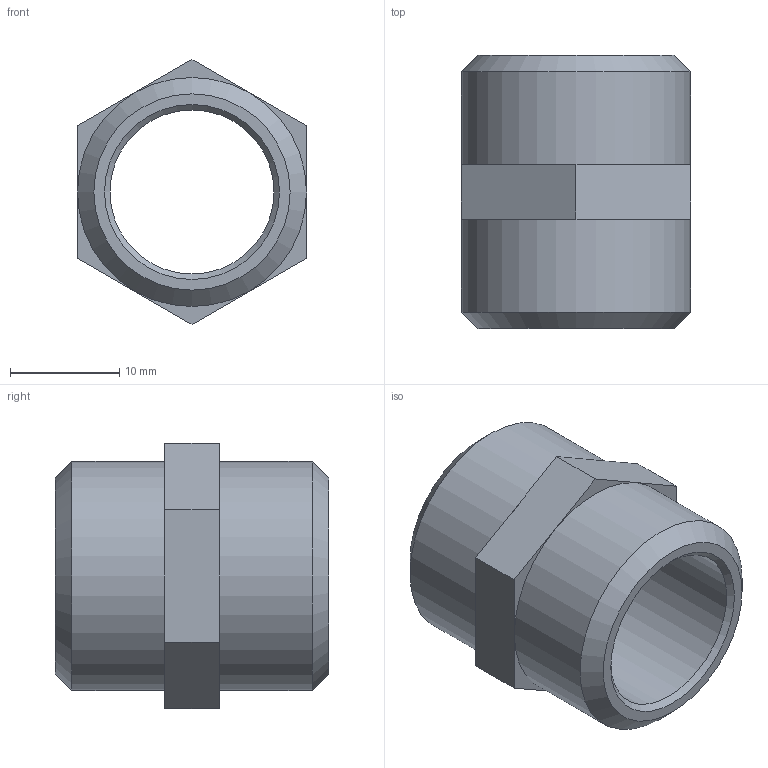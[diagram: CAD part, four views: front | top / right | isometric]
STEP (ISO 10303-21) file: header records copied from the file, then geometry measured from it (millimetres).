
FILE_DESCRIPTION(('STEP AP203'), '1');
FILE_NAME('ÂÐ.753136.001 - VTr.582.N.0004 Íèïïåëü G1-2', '2024-07-05T11:56:19', ('IT'), ('VESTA'), 'C3D Converter', 'C3D Toolkit', '');
FILE_SCHEMA(('CONFIG_CONTROL_DESIGN'));
Length unit declared in the file: millimetre
Products named in the file (1): ВР.753136.001
Bounding box: 21 x 25 x 24.25 mm (x, y, z)
Volume: 4236.2 mm3; surface area: 3120.4 mm2
Topology: 1 solids, 1 shells, 17 faces, 35 edges, 22 vertices
Faces by surface type: plane 10, cone 4, cylinder 3
Full cylindrical faces by diameter (mm): 15 x1, 20.955 x2
Entity records: 447 total; most frequent: DIRECTION 74, CARTESIAN_POINT 68, ORIENTED_EDGE 56, AXIS2_PLACEMENT_3D 28, EDGE_LOOP 28, EDGE_CURVE 28, VERTEX_POINT 22, LINE 18
